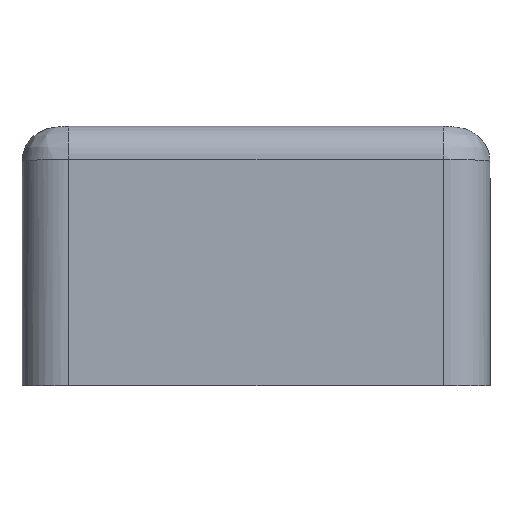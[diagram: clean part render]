
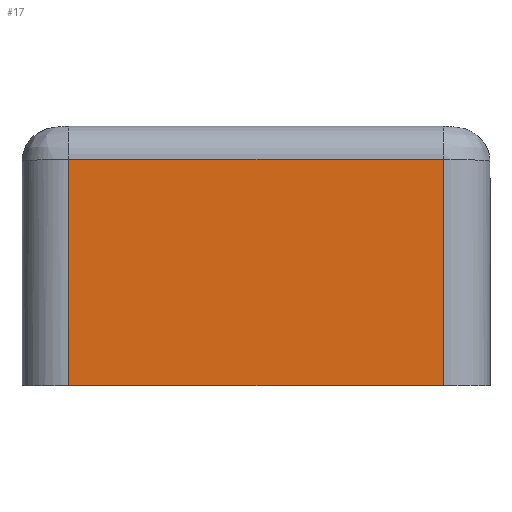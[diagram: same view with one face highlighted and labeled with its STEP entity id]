
A CAD part, left-side view. The second image highlights one B-rep face of the part: STEP entity #17.
In plain terms, the highlighted planar face has unit normal (-1, 0, 0).
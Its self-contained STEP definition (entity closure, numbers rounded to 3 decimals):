
#17 = ADVANCED_FACE('',(#18),#32,.F.);
#18 = FACE_BOUND('',#19,.F.);
#19 = EDGE_LOOP('',(#20,#55,#83,#111));
#20 = ORIENTED_EDGE('',*,*,#21,.T.);
#21 = EDGE_CURVE('',#22,#24,#26,.T.);
#22 = VERTEX_POINT('',#23);
#23 = CARTESIAN_POINT('',(-150.,56.,0.));
#24 = VERTEX_POINT('',#25);
#25 = CARTESIAN_POINT('',(-150.,56.,67.75));
#26 = SURFACE_CURVE('',#27,(#31,#43),.PCURVE_S1.);
#27 = LINE('',#28,#29);
#28 = CARTESIAN_POINT('',(-150.,56.,0.));
#29 = VECTOR('',#30,1.);
#30 = DIRECTION('',(0.,0.,1.));
#31 = PCURVE('',#32,#37);
#32 = PLANE('',#33);
#33 = AXIS2_PLACEMENT_3D('',#34,#35,#36);
#34 = CARTESIAN_POINT('',(-150.,-70.,0.));
#35 = DIRECTION('',(1.,0.,-0.));
#36 = DIRECTION('',(0.,0.,1.));
#37 = DEFINITIONAL_REPRESENTATION('',(#38),#42);
#38 = LINE('',#39,#40);
#39 = CARTESIAN_POINT('',(0.,-126.));
#40 = VECTOR('',#41,1.);
#41 = DIRECTION('',(1.,0.));
#42 = ( GEOMETRIC_REPRESENTATION_CONTEXT(2) 
PARAMETRIC_REPRESENTATION_CONTEXT() REPRESENTATION_CONTEXT('2D SPACE',''
  ) );
#43 = PCURVE('',#44,#49);
#44 = CYLINDRICAL_SURFACE('',#45,14.);
#45 = AXIS2_PLACEMENT_3D('',#46,#47,#48);
#46 = CARTESIAN_POINT('',(-136.,56.,0.));
#47 = DIRECTION('',(0.,0.,1.));
#48 = DIRECTION('',(-1.,-0.,0.));
#49 = DEFINITIONAL_REPRESENTATION('',(#50),#54);
#50 = LINE('',#51,#52);
#51 = CARTESIAN_POINT('',(-0.,0.));
#52 = VECTOR('',#53,1.);
#53 = DIRECTION('',(-0.,1.));
#54 = ( GEOMETRIC_REPRESENTATION_CONTEXT(2) 
PARAMETRIC_REPRESENTATION_CONTEXT() REPRESENTATION_CONTEXT('2D SPACE',''
  ) );
#55 = ORIENTED_EDGE('',*,*,#56,.T.);
#56 = EDGE_CURVE('',#24,#57,#59,.T.);
#57 = VERTEX_POINT('',#58);
#58 = CARTESIAN_POINT('',(-150.,-56.,67.75));
#59 = SURFACE_CURVE('',#60,(#64,#71),.PCURVE_S1.);
#60 = LINE('',#61,#62);
#61 = CARTESIAN_POINT('',(-150.,56.,67.75));
#62 = VECTOR('',#63,1.);
#63 = DIRECTION('',(0.,-1.,0.));
#64 = PCURVE('',#32,#65);
#65 = DEFINITIONAL_REPRESENTATION('',(#66),#70);
#66 = LINE('',#67,#68);
#67 = CARTESIAN_POINT('',(67.75,-126.));
#68 = VECTOR('',#69,1.);
#69 = DIRECTION('',(0.,1.));
#70 = ( GEOMETRIC_REPRESENTATION_CONTEXT(2) 
PARAMETRIC_REPRESENTATION_CONTEXT() REPRESENTATION_CONTEXT('2D SPACE',''
  ) );
#71 = PCURVE('',#72,#77);
#72 = CYLINDRICAL_SURFACE('',#73,10.);
#73 = AXIS2_PLACEMENT_3D('',#74,#75,#76);
#74 = CARTESIAN_POINT('',(-140.,56.,67.75));
#75 = DIRECTION('',(0.,-1.,0.));
#76 = DIRECTION('',(-1.,0.,0.));
#77 = DEFINITIONAL_REPRESENTATION('',(#78),#82);
#78 = LINE('',#79,#80);
#79 = CARTESIAN_POINT('',(-0.,0.));
#80 = VECTOR('',#81,1.);
#81 = DIRECTION('',(-0.,1.));
#82 = ( GEOMETRIC_REPRESENTATION_CONTEXT(2) 
PARAMETRIC_REPRESENTATION_CONTEXT() REPRESENTATION_CONTEXT('2D SPACE',''
  ) );
#83 = ORIENTED_EDGE('',*,*,#84,.F.);
#84 = EDGE_CURVE('',#85,#57,#87,.T.);
#85 = VERTEX_POINT('',#86);
#86 = CARTESIAN_POINT('',(-150.,-56.,0.));
#87 = SURFACE_CURVE('',#88,(#92,#99),.PCURVE_S1.);
#88 = LINE('',#89,#90);
#89 = CARTESIAN_POINT('',(-150.,-56.,0.));
#90 = VECTOR('',#91,1.);
#91 = DIRECTION('',(0.,0.,1.));
#92 = PCURVE('',#32,#93);
#93 = DEFINITIONAL_REPRESENTATION('',(#94),#98);
#94 = LINE('',#95,#96);
#95 = CARTESIAN_POINT('',(0.,-14.));
#96 = VECTOR('',#97,1.);
#97 = DIRECTION('',(1.,0.));
#98 = ( GEOMETRIC_REPRESENTATION_CONTEXT(2) 
PARAMETRIC_REPRESENTATION_CONTEXT() REPRESENTATION_CONTEXT('2D SPACE',''
  ) );
#99 = PCURVE('',#100,#105);
#100 = CYLINDRICAL_SURFACE('',#101,14.);
#101 = AXIS2_PLACEMENT_3D('',#102,#103,#104);
#102 = CARTESIAN_POINT('',(-136.,-56.,0.));
#103 = DIRECTION('',(0.,0.,1.));
#104 = DIRECTION('',(-1.,-0.,0.));
#105 = DEFINITIONAL_REPRESENTATION('',(#106),#110);
#106 = LINE('',#107,#108);
#107 = CARTESIAN_POINT('',(0.,0.));
#108 = VECTOR('',#109,1.);
#109 = DIRECTION('',(0.,1.));
#110 = ( GEOMETRIC_REPRESENTATION_CONTEXT(2) 
PARAMETRIC_REPRESENTATION_CONTEXT() REPRESENTATION_CONTEXT('2D SPACE',''
  ) );
#111 = ORIENTED_EDGE('',*,*,#112,.T.);
#112 = EDGE_CURVE('',#85,#22,#113,.T.);
#113 = SURFACE_CURVE('',#114,(#118,#125),.PCURVE_S1.);
#114 = LINE('',#115,#116);
#115 = CARTESIAN_POINT('',(-150.,-70.,0.));
#116 = VECTOR('',#117,1.);
#117 = DIRECTION('',(-0.,1.,0.));
#118 = PCURVE('',#32,#119);
#119 = DEFINITIONAL_REPRESENTATION('',(#120),#124);
#120 = LINE('',#121,#122);
#121 = CARTESIAN_POINT('',(0.,0.));
#122 = VECTOR('',#123,1.);
#123 = DIRECTION('',(0.,-1.));
#124 = ( GEOMETRIC_REPRESENTATION_CONTEXT(2) 
PARAMETRIC_REPRESENTATION_CONTEXT() REPRESENTATION_CONTEXT('2D SPACE',''
  ) );
#125 = PCURVE('',#126,#131);
#126 = PLANE('',#127);
#127 = AXIS2_PLACEMENT_3D('',#128,#129,#130);
#128 = CARTESIAN_POINT('',(-150.,-70.,0.));
#129 = DIRECTION('',(0.,0.,1.));
#130 = DIRECTION('',(1.,0.,-0.));
#131 = DEFINITIONAL_REPRESENTATION('',(#132),#136);
#132 = LINE('',#133,#134);
#133 = CARTESIAN_POINT('',(0.,0.));
#134 = VECTOR('',#135,1.);
#135 = DIRECTION('',(0.,1.));
#136 = ( GEOMETRIC_REPRESENTATION_CONTEXT(2) 
PARAMETRIC_REPRESENTATION_CONTEXT() REPRESENTATION_CONTEXT('2D SPACE',''
  ) );
